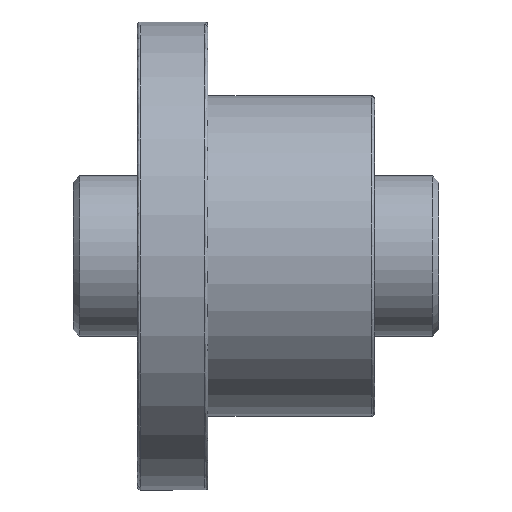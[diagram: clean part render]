
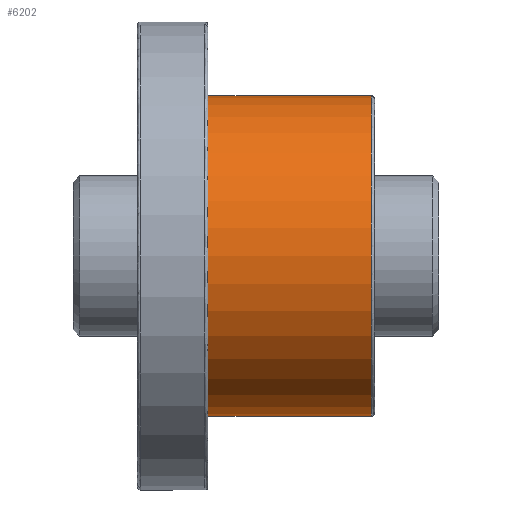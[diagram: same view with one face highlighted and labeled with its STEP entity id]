
A CAD part, front view. The second image highlights one B-rep face of the part: STEP entity #6202.
In plain terms, the highlighted cylindrical face has radius 25 mm (diameter 50 mm), a partial arc.
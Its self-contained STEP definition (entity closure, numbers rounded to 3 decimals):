
#81 = VERTEX_POINT ( 'NONE', #3389 ) ;
#88 = CARTESIAN_POINT ( 'NONE',  ( 36.5, 0., 0. ) ) ;
#606 = VECTOR ( 'NONE', #1044, 1000. ) ;
#665 = ORIENTED_EDGE ( 'NONE', *, *, #2676, .T. ) ;
#793 = CIRCLE ( 'NONE', #6523, 25. ) ;
#984 = CARTESIAN_POINT ( 'NONE',  ( 11., 0., 25. ) ) ;
#1044 = DIRECTION ( 'NONE',  ( -1., 0., 0. ) ) ;
#1281 = DIRECTION ( 'NONE',  ( 0., 0., 1. ) ) ;
#1334 = DIRECTION ( 'NONE',  ( -1., 0., 0. ) ) ;
#2620 = EDGE_CURVE ( 'NONE', #3176, #5228, #6771, .T. ) ;
#2676 = EDGE_CURVE ( 'NONE', #81, #3176, #793, .T. ) ;
#2885 = CYLINDRICAL_SURFACE ( 'NONE', #4506, 25. ) ;
#2947 = ORIENTED_EDGE ( 'NONE', *, *, #2620, .T. ) ;
#3123 = DIRECTION ( 'NONE',  ( -1., 0., 0. ) ) ;
#3176 = VERTEX_POINT ( 'NONE', #7245 ) ;
#3184 = EDGE_CURVE ( 'NONE', #81, #5062, #4514, .T. ) ;
#3278 = CIRCLE ( 'NONE', #3945, 25. ) ;
#3389 = CARTESIAN_POINT ( 'NONE',  ( 36.5, 0., -25. ) ) ;
#3557 = DIRECTION ( 'NONE',  ( 0., 0., 1. ) ) ;
#3583 = DIRECTION ( 'NONE',  ( -1., 0., 0. ) ) ;
#3945 = AXIS2_PLACEMENT_3D ( 'NONE', #4040, #6564, #7789 ) ;
#4040 = CARTESIAN_POINT ( 'NONE',  ( 11., 0., 0. ) ) ;
#4506 = AXIS2_PLACEMENT_3D ( 'NONE', #7874, #3583, #3557 ) ;
#4514 = LINE ( 'NONE', #7187, #606 ) ;
#4561 = FACE_OUTER_BOUND ( 'NONE', #7841, .T. ) ;
#4629 = ORIENTED_EDGE ( 'NONE', *, *, #7300, .F. ) ;
#5062 = VERTEX_POINT ( 'NONE', #6396 ) ;
#5110 = VECTOR ( 'NONE', #1334, 1000. ) ;
#5228 = VERTEX_POINT ( 'NONE', #984 ) ;
#6202 = ADVANCED_FACE ( 'NONE', ( #4561 ), #2885, .T. ) ;
#6312 = CARTESIAN_POINT ( 'NONE',  ( 37., 0., 25. ) ) ;
#6396 = CARTESIAN_POINT ( 'NONE',  ( 11., 0., -25. ) ) ;
#6523 = AXIS2_PLACEMENT_3D ( 'NONE', #88, #3123, #1281 ) ;
#6564 = DIRECTION ( 'NONE',  ( -1., 0., 0. ) ) ;
#6698 = ORIENTED_EDGE ( 'NONE', *, *, #3184, .F. ) ;
#6771 = LINE ( 'NONE', #6312, #5110 ) ;
#7187 = CARTESIAN_POINT ( 'NONE',  ( 37., 0., -25. ) ) ;
#7245 = CARTESIAN_POINT ( 'NONE',  ( 36.5, 0., 25. ) ) ;
#7300 = EDGE_CURVE ( 'NONE', #5062, #5228, #3278, .T. ) ;
#7789 = DIRECTION ( 'NONE',  ( 0., 0., 1. ) ) ;
#7841 = EDGE_LOOP ( 'NONE', ( #6698, #665, #2947, #4629 ) ) ;
#7874 = CARTESIAN_POINT ( 'NONE',  ( 37., 0., 0. ) ) ;
